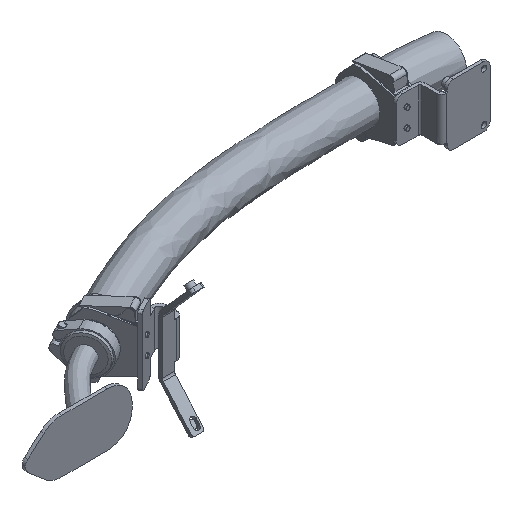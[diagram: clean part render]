
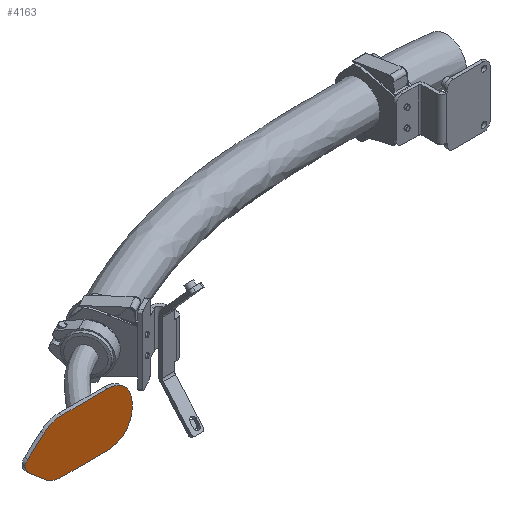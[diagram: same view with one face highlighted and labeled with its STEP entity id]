
A CAD part, isometric view. The second image highlights one B-rep face of the part: STEP entity #4163.
In plain terms, the highlighted planar face has unit normal (0, -1, 0).
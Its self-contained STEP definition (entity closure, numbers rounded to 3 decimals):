
#20 = CARTESIAN_POINT ( 'NONE',  ( 667.998, 89., 2525. ) ) ;
#245 = CARTESIAN_POINT ( 'NONE',  ( 743.594, 89., 2521. ) ) ;
#260 = CARTESIAN_POINT ( 'NONE',  ( 612.208, 89., 2515.644 ) ) ;
#1468 = ORIENTED_EDGE ( 'NONE', *, *, #6890, .F. ) ;
#1567 = CARTESIAN_POINT ( 'NONE',  ( 743.594, 89., 2529. ) ) ;
#1767 = EDGE_CURVE ( 'NONE', #19378, #1862, #11217, .T. ) ;
#1805 = ORIENTED_EDGE ( 'NONE', *, *, #16037, .F. ) ;
#1862 = VERTEX_POINT ( 'NONE', #18742 ) ;
#2423 = ORIENTED_EDGE ( 'NONE', *, *, #2578, .F. ) ;
#2491 = AXIS2_PLACEMENT_3D ( 'NONE', #5603, #3632, #21546 ) ;
#2578 = EDGE_CURVE ( 'NONE', #14507, #13382, #13767, .T. ) ;
#2652 = AXIS2_PLACEMENT_3D ( 'NONE', #245, #14115, #8224 ) ;
#2717 = CARTESIAN_POINT ( 'NONE',  ( 638.819, 89., 2557.933 ) ) ;
#2895 = VERTEX_POINT ( 'NONE', #2717 ) ;
#3229 = EDGE_LOOP ( 'NONE', ( #10946, #1805, #18420, #13299, #14530, #2423, #7720, #1468, #15687, #14059 ) ) ;
#3632 = DIRECTION ( 'NONE',  ( 0., 1., 0. ) ) ;
#4101 = CARTESIAN_POINT ( 'NONE',  ( 790.702, 89., 2481. ) ) ;
#4163 = ADVANCED_FACE ( 'NONE', ( #25811 ), #16158, .T. ) ;
#4307 = VECTOR ( 'NONE', #15866, 1000. ) ;
#5537 = DIRECTION ( 'NONE',  ( 0., -1., 0. ) ) ;
#5603 = CARTESIAN_POINT ( 'NONE',  ( 620.498, 89., 2525. ) ) ;
#6831 = AXIS2_PLACEMENT_3D ( 'NONE', #6834, #20830, #22653 ) ;
#6834 = CARTESIAN_POINT ( 'NONE',  ( 667.998, 89., 2525. ) ) ;
#6890 = EDGE_CURVE ( 'NONE', #10477, #22281, #16047, .T. ) ;
#7135 = EDGE_CURVE ( 'NONE', #22281, #14507, #19780, .T. ) ;
#7720 = ORIENTED_EDGE ( 'NONE', *, *, #7135, .F. ) ;
#7862 = CARTESIAN_POINT ( 'NONE',  ( 612.208, 89., 2515.644 ) ) ;
#7890 = CARTESIAN_POINT ( 'NONE',  ( 704.653, 89., 2518.968 ) ) ;
#8008 = DIRECTION ( 'NONE',  ( 0., -1., 0. ) ) ;
#8224 = DIRECTION ( 'NONE',  ( 1., 0., 0. ) ) ;
#8777 = DIRECTION ( 'NONE',  ( 1., 0., 0. ) ) ;
#8989 = CARTESIAN_POINT ( 'NONE',  ( 612.208, 89., 2534.356 ) ) ;
#9281 = DIRECTION ( 'NONE',  ( 1., 0., 0. ) ) ;
#9577 = VECTOR ( 'NONE', #10346, 1000. ) ;
#10071 = VERTEX_POINT ( 'NONE', #20442 ) ;
#10346 = DIRECTION ( 'NONE',  ( -1., 0., 0. ) ) ;
#10477 = VERTEX_POINT ( 'NONE', #14119 ) ;
#10868 = VECTOR ( 'NONE', #22366, 1000. ) ;
#10946 = ORIENTED_EDGE ( 'NONE', *, *, #1767, .F. ) ;
#11217 = CIRCLE ( 'NONE', #22915, 60. ) ;
#12456 = EDGE_CURVE ( 'NONE', #10071, #10477, #16561, .T. ) ;
#12567 = DIRECTION ( 'NONE',  ( 0., 1., 0. ) ) ;
#13117 = VECTOR ( 'NONE', #18377, 1000. ) ;
#13299 = ORIENTED_EDGE ( 'NONE', *, *, #20540, .T. ) ;
#13382 = VERTEX_POINT ( 'NONE', #8989 ) ;
#13756 = CIRCLE ( 'NONE', #20454, 40. ) ;
#13767 = CIRCLE ( 'NONE', #2491, 12.5 ) ;
#13782 = CARTESIAN_POINT ( 'NONE',  ( 667.998, 89., 2569. ) ) ;
#14059 = ORIENTED_EDGE ( 'NONE', *, *, #22180, .T. ) ;
#14115 = DIRECTION ( 'NONE',  ( 0., -1., 0. ) ) ;
#14119 = CARTESIAN_POINT ( 'NONE',  ( 667.998, 89., 2481. ) ) ;
#14165 = VERTEX_POINT ( 'NONE', #13782 ) ;
#14506 = CARTESIAN_POINT ( 'NONE',  ( 638.819, 89., 2492.067 ) ) ;
#14507 = VERTEX_POINT ( 'NONE', #260 ) ;
#14530 = ORIENTED_EDGE ( 'NONE', *, *, #18264, .T. ) ;
#15541 = AXIS2_PLACEMENT_3D ( 'NONE', #20, #8008, #16020 ) ;
#15687 = ORIENTED_EDGE ( 'NONE', *, *, #12456, .F. ) ;
#15866 = DIRECTION ( 'NONE',  ( -0.748, 0., 0.663 ) ) ;
#16020 = DIRECTION ( 'NONE',  ( -1., 0., 0. ) ) ;
#16037 = EDGE_CURVE ( 'NONE', #21988, #19378, #13756, .T. ) ;
#16047 = CIRCLE ( 'NONE', #6831, 44. ) ;
#16158 = PLANE ( 'NONE',  #24243 ) ;
#16561 = LINE ( 'NONE', #4101, #13117 ) ;
#17527 = DIRECTION ( 'NONE',  ( 0., 1., 0. ) ) ;
#18143 = CARTESIAN_POINT ( 'NONE',  ( 743.594, 89., 2569. ) ) ;
#18208 = EDGE_CURVE ( 'NONE', #21988, #14165, #21980, .T. ) ;
#18264 = EDGE_CURVE ( 'NONE', #2895, #13382, #22108, .T. ) ;
#18377 = DIRECTION ( 'NONE',  ( -1., 0., 0. ) ) ;
#18420 = ORIENTED_EDGE ( 'NONE', *, *, #18208, .T. ) ;
#18742 = CARTESIAN_POINT ( 'NONE',  ( 782.785, 89., 2513. ) ) ;
#18889 = CIRCLE ( 'NONE', #15541, 44. ) ;
#19378 = VERTEX_POINT ( 'NONE', #24185 ) ;
#19780 = LINE ( 'NONE', #7862, #4307 ) ;
#20034 = CARTESIAN_POINT ( 'NONE',  ( 612.208, 89., 2534.356 ) ) ;
#20442 = CARTESIAN_POINT ( 'NONE',  ( 743.594, 89., 2481. ) ) ;
#20454 = AXIS2_PLACEMENT_3D ( 'NONE', #1567, #17527, #9281 ) ;
#20540 = EDGE_CURVE ( 'NONE', #14165, #2895, #18889, .T. ) ;
#20830 = DIRECTION ( 'NONE',  ( 0., 1., 0. ) ) ;
#21072 = CARTESIAN_POINT ( 'NONE',  ( 723.998, 89., 2525. ) ) ;
#21546 = DIRECTION ( 'NONE',  ( -1., 0., 0. ) ) ;
#21980 = LINE ( 'NONE', #23937, #9577 ) ;
#21988 = VERTEX_POINT ( 'NONE', #18143 ) ;
#22108 = LINE ( 'NONE', #20034, #10868 ) ;
#22180 = EDGE_CURVE ( 'NONE', #10071, #1862, #23938, .T. ) ;
#22281 = VERTEX_POINT ( 'NONE', #14506 ) ;
#22366 = DIRECTION ( 'NONE',  ( -0.748, 0., -0.663 ) ) ;
#22653 = DIRECTION ( 'NONE',  ( -1., 0., 0. ) ) ;
#22915 = AXIS2_PLACEMENT_3D ( 'NONE', #21072, #12567, #8777 ) ;
#23842 = DIRECTION ( 'NONE',  ( 1., 0., 0. ) ) ;
#23937 = CARTESIAN_POINT ( 'NONE',  ( 790.702, 89., 2569. ) ) ;
#23938 = CIRCLE ( 'NONE', #2652, 40. ) ;
#24185 = CARTESIAN_POINT ( 'NONE',  ( 782.785, 89., 2537. ) ) ;
#24243 = AXIS2_PLACEMENT_3D ( 'NONE', #7890, #5537, #23842 ) ;
#25811 = FACE_OUTER_BOUND ( 'NONE', #3229, .T. ) ;
